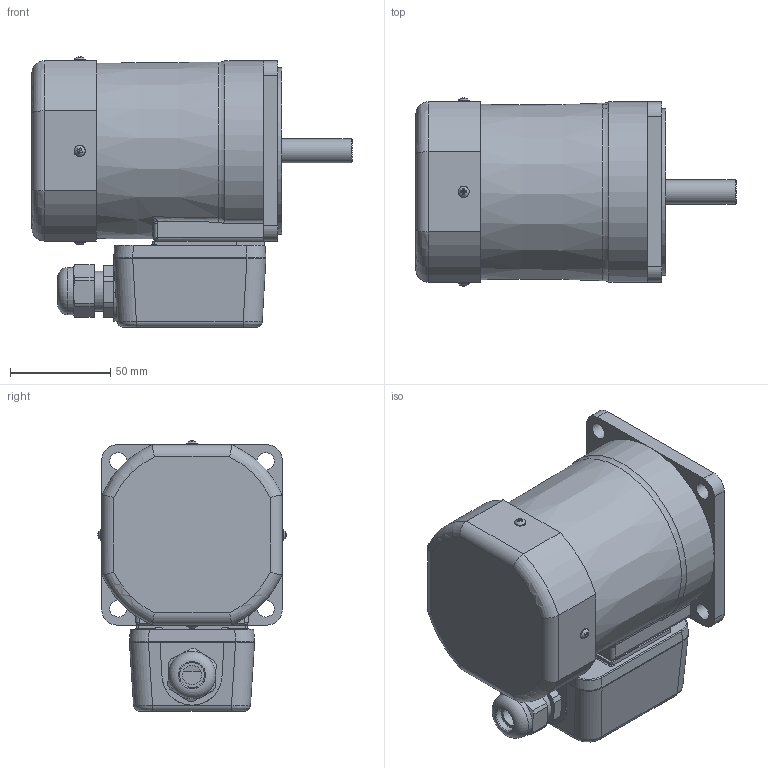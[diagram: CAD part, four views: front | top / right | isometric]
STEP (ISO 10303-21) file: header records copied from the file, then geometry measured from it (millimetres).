
FILE_DESCRIPTION(/* description */ (''),/* implementation_level */ '2;1');
FILE_NAME(/* name */ 'E:\도면작업\2016\0704) 미주향 SG 도면\3D MOTOR\TERMINAL BOX TYPE\INDUCTION TERMINAL BOX\SG9I60S_-T.stp',/* time_stamp */ '2017-01-23T19:06:53+09:00',/* author */ ('jy-jung'),/* organization */ (''),/* preprocessor_version */ 'ST-DEVELOPER v15.6',/* originating_system */ 'Autodesk Inventor 2015',/* authorisation */ '');
FILE_SCHEMA (('AUTOMOTIVE_DESIGN { 1 0 10303 214 3 1 1 }'));
Length unit declared in the file: millimetre
Products named in the file (1): 부품2
Bounding box: 159.8 x 93.89 x 134.95 mm (x, y, z)
Volume: 998396.2 mm3; surface area: 79452.5 mm2
Topology: 1 solids, 13 shells, 467 faces, 1161 edges, 738 vertices
Faces by surface type: plane 250, cylinder 124, bspline 54, torus 30, cone 9
Full cylindrical faces by diameter (mm): 2.55 x2, 3 x4, 3.5 x4, 5.6 x8, 6.3 x4, 8.5 x4, 12 x1, 12.5 x1, 15 x1, 20 x2, 21 x1, 23.6 x1, 40 x1, 83 x1
Entity records: 15946 total; most frequent: CARTESIAN_POINT 5030, ORIENTED_EDGE 2156, DIRECTION 2028, EDGE_CURVE 1078, AXIS2_PLACEMENT_3D 727, VERTEX_POINT 724, LINE 574, VECTOR 574
